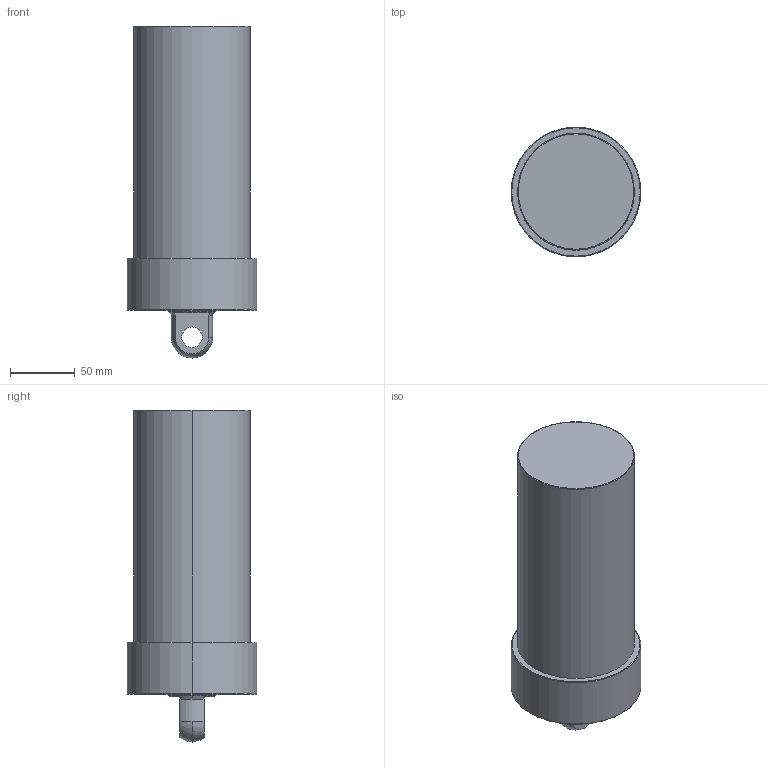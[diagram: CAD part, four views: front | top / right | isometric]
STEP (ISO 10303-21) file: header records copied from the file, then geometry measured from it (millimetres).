
FILE_DESCRIPTION (( 'STEP AP203' ), '1' );
FILE_NAME ('CLLU-090GP-135.STEP', '2020-01-15T01:49:57', ( '' ), ( '' ), 'SwSTEP 2.0', 'SolidWorks 2015', '' );
FILE_SCHEMA (( 'CONFIG_CONTROL_DESIGN' ));
Length unit declared in the file: millimetre
Products named in the file (1): CLLU-090GP-135
Bounding box: 100 x 100 x 256 mm (x, y, z)
Volume: 1461911 mm3; surface area: 85066.4 mm2
Topology: 1 solids, 1 shells, 58 faces, 131 edges, 75 vertices
Faces by surface type: cylinder 23, cone 18, plane 9, torus 6, sphere 2
Entity records: 1658 total; most frequent: DIRECTION 311, CARTESIAN_POINT 269, ORIENTED_EDGE 246, AXIS2_PLACEMENT_3D 133, EDGE_CURVE 123, VERTEX_POINT 75, CIRCLE 74, EDGE_LOOP 68
